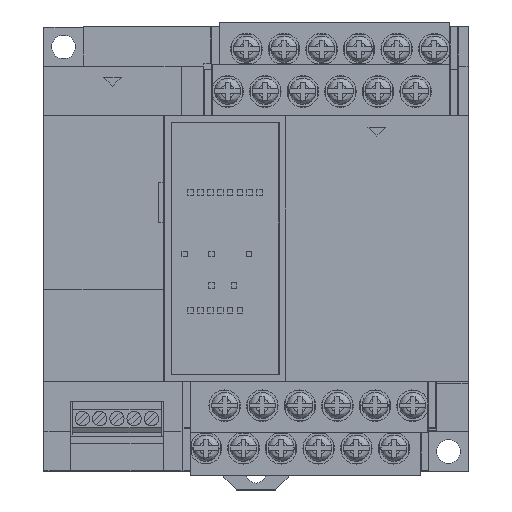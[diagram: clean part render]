
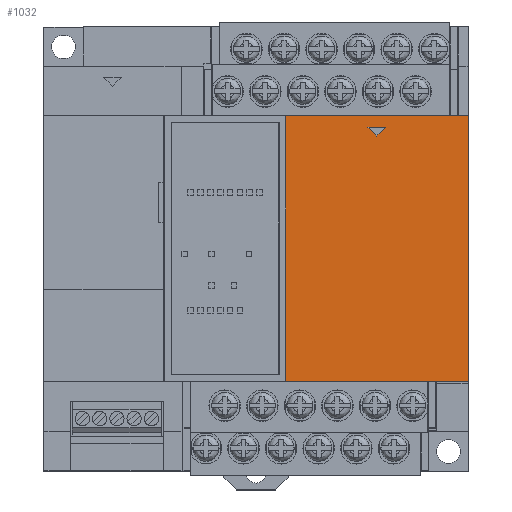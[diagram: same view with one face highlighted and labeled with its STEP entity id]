
A CAD part, top view. The second image highlights one B-rep face of the part: STEP entity #1032.
In plain terms, the highlighted planar face has unit normal (0, 0, 1).
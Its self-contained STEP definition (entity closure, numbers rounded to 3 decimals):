
#649 = EDGE_CURVE ( 'NONE', #1015, #1020, #64359, .T. ) ;
#656 = ORIENTED_EDGE ( 'NONE', *, *, #1089, .T. ) ;
#663 = EDGE_CURVE ( 'NONE', #5007, #4867, #64694, .T. ) ;
#716 = VERTEX_POINT ( 'NONE', #65529 ) ;
#1015 = VERTEX_POINT ( 'NONE', #65562 ) ;
#1017 = EDGE_CURVE ( 'NONE', #716, #1111, #65530, .T. ) ;
#1018 = EDGE_LOOP ( 'NONE', ( #1040, #1079, #1025, #656 ) ) ;
#1019 = ORIENTED_EDGE ( 'NONE', *, *, #4852, .T. ) ;
#1020 = VERTEX_POINT ( 'NONE', #65978 ) ;
#1025 = ORIENTED_EDGE ( 'NONE', *, *, #1017, .T. ) ;
#1028 = ORIENTED_EDGE ( 'NONE', *, *, #663, .T. ) ;
#1031 = ORIENTED_EDGE ( 'NONE', *, *, #5008, .T. ) ;
#1032 = ADVANCED_FACE ( 'NONE', ( #65774, #65620 ), #65758, .T. ) ;
#1040 = ORIENTED_EDGE ( 'NONE', *, *, #649, .T. ) ;
#1079 = ORIENTED_EDGE ( 'NONE', *, *, #1090, .T. ) ;
#1089 = EDGE_CURVE ( 'NONE', #1111, #1015, #66180, .T. ) ;
#1090 = EDGE_CURVE ( 'NONE', #1020, #716, #66445, .T. ) ;
#1110 = EDGE_LOOP ( 'NONE', ( #1031, #1028, #1019 ) ) ;
#1111 = VERTEX_POINT ( 'NONE', #66325 ) ;
#4852 = EDGE_CURVE ( 'NONE', #4867, #4956, #60554, .T. ) ;
#4867 = VERTEX_POINT ( 'NONE', #60469 ) ;
#4956 = VERTEX_POINT ( 'NONE', #61067 ) ;
#5007 = VERTEX_POINT ( 'NONE', #61066 ) ;
#5008 = EDGE_CURVE ( 'NONE', #4956, #5007, #60659, .T. ) ;
#60362 = DIRECTION ( 'NONE',  ( -0.707, -0.707, 0. ) ) ;
#60363 = VECTOR ( 'NONE', #60362, 1000. ) ;
#60469 = CARTESIAN_POINT ( 'NONE',  ( 1.8, 24.6, 5. ) ) ;
#60553 = CARTESIAN_POINT ( 'NONE',  ( 1.8, 24.6, 5. ) ) ;
#60554 = LINE ( 'NONE', #60553, #60363 ) ;
#60659 = LINE ( 'NONE', #60709, #60661 ) ;
#60660 = DIRECTION ( 'NONE',  ( -0.707, 0.707, 0. ) ) ;
#60661 = VECTOR ( 'NONE', #60660, 1000. ) ;
#60709 = CARTESIAN_POINT ( 'NONE',  ( 0., 22.8, 5. ) ) ;
#61066 = CARTESIAN_POINT ( 'NONE',  ( -1.8, 24.6, 5. ) ) ;
#61067 = CARTESIAN_POINT ( 'NONE',  ( 0., 22.8, 5. ) ) ;
#64358 = CARTESIAN_POINT ( 'NONE',  ( 18.5, 0., 5. ) ) ;
#64359 = LINE ( 'NONE', #64358, #64425 ) ;
#64424 = DIRECTION ( 'NONE',  ( 0., 1., 0. ) ) ;
#64425 = VECTOR ( 'NONE', #64424, 1000. ) ;
#64629 = DIRECTION ( 'NONE',  ( 1., 0., 0. ) ) ;
#64632 = VECTOR ( 'NONE', #64629, 1000. ) ;
#64692 = CARTESIAN_POINT ( 'NONE',  ( 0., 24.6, 5. ) ) ;
#64694 = LINE ( 'NONE', #64692, #64632 ) ;
#65529 = CARTESIAN_POINT ( 'NONE',  ( -18.5, 26.9, 5. ) ) ;
#65530 = LINE ( 'NONE', #65780, #65778 ) ;
#65562 = CARTESIAN_POINT ( 'NONE',  ( 18.5, -26.9, 5. ) ) ;
#65604 = DIRECTION ( 'NONE',  ( 1., 0., 0. ) ) ;
#65607 = DIRECTION ( 'NONE',  ( 0., 0., 1. ) ) ;
#65620 = FACE_OUTER_BOUND ( 'NONE', #1018, .T. ) ;
#65691 = CARTESIAN_POINT ( 'NONE',  ( -18.5, -26.9, 5. ) ) ;
#65758 = PLANE ( 'NONE',  #65763 ) ;
#65763 = AXIS2_PLACEMENT_3D ( 'NONE', #65691, #65607, #65604 ) ;
#65774 = FACE_BOUND ( 'NONE', #1110, .T. ) ;
#65776 = DIRECTION ( 'NONE',  ( 0., -1., 0. ) ) ;
#65778 = VECTOR ( 'NONE', #65776, 1000. ) ;
#65780 = CARTESIAN_POINT ( 'NONE',  ( -18.5, 0., 5. ) ) ;
#65978 = CARTESIAN_POINT ( 'NONE',  ( 18.5, 26.9, 5. ) ) ;
#66175 = DIRECTION ( 'NONE',  ( 1., 0., 0. ) ) ;
#66177 = VECTOR ( 'NONE', #66175, 1000. ) ;
#66179 = CARTESIAN_POINT ( 'NONE',  ( 0., -26.9, 5. ) ) ;
#66180 = LINE ( 'NONE', #66179, #66177 ) ;
#66268 = DIRECTION ( 'NONE',  ( -1., 0., 0. ) ) ;
#66325 = CARTESIAN_POINT ( 'NONE',  ( -18.5, -26.9, 5. ) ) ;
#66346 = VECTOR ( 'NONE', #66268, 1000. ) ;
#66445 = LINE ( 'NONE', #66489, #66346 ) ;
#66489 = CARTESIAN_POINT ( 'NONE',  ( 0., 26.9, 5. ) ) ;
